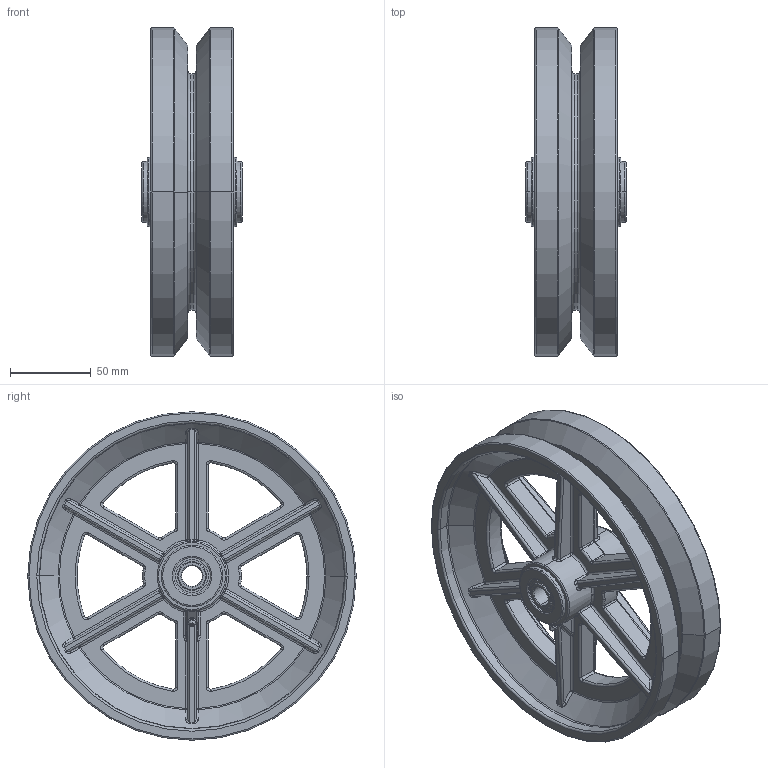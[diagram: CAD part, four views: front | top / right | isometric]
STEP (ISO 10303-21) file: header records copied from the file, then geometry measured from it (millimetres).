
FILE_DESCRIPTION (( 'STEP AP214' ), '1' );
FILE_NAME ('SCC-VGR820 3D STEP.STEP', '2022-12-05T19:18:48', ( '' ), ( '' ), 'SwSTEP 2.0', 'SolidWorks 2016', '' );
FILE_SCHEMA (( 'AUTOMOTIVE_DESIGN' ));
Length unit declared in the file: inch
Products named in the file (1): SCC-VGR820 3D STEP
Bounding box: 61.91 x 203.2 x 203.2 mm (x, y, z)
Volume: 512192.2 mm3; surface area: 147733.5 mm2
Topology: 1 solids, 1 shells, 611 faces, 1386 edges, 768 vertices
Faces by surface type: cylinder 193, torus 149, bspline 102, plane 79, sphere 68, cone 20
Entity records: 28375 total; most frequent: CARTESIAN_POINT 7234, DIRECTION 2970, ORIENTED_EDGE 2716, EDGE_CURVE 1358, AXIS2_PLACEMENT_3D 1322, CIRCLE 812, VERTEX_POINT 762, EDGE_LOOP 638
